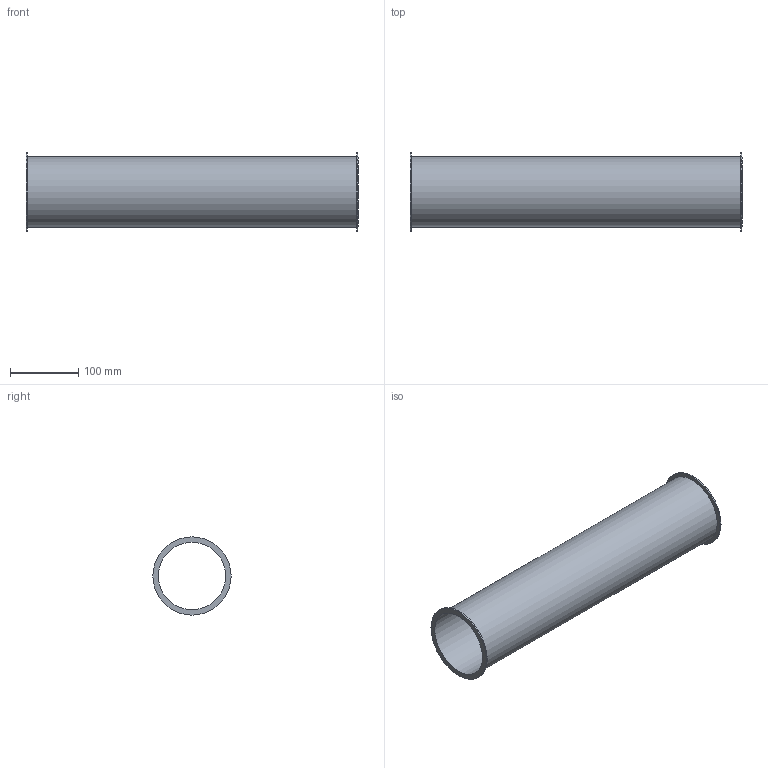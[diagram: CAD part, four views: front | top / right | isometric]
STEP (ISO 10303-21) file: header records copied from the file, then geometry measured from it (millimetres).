
FILE_DESCRIPTION((''),'2;1');
FILE_NAME('U:\Wolfgang\Marcel-3D\fertig\Kapitel 1\1021003.stp','2010-05-31T11:03:47',('TK2'),(''),'Autodesk Inventor 2010','Autodesk Inventor 2010','');
FILE_SCHEMA(('AUTOMOTIVE_DESIGN { 1 0 10303 214 1 1 1 1 }'));
Length unit declared in the file: millimetre
Products named in the file (1): 1021003
Bounding box: 488 x 115 x 115 mm (x, y, z)
Volume: 317904 mm3; surface area: 319324 mm2
Topology: 1 solids, 1 shells, 8 faces, 12 edges, 8 vertices
Faces by surface type: cylinder 4, plane 4
Full cylindrical faces by diameter (mm): 99 x1, 103 x1, 115 x2
Entity records: 194 total; most frequent: DIRECTION 34, CARTESIAN_POINT 25, AXIS2_PLACEMENT_3D 17, ORIENTED_EDGE 16, EDGE_LOOP 16, VERTEX_POINT 8, CIRCLE 8, EDGE_CURVE 8
